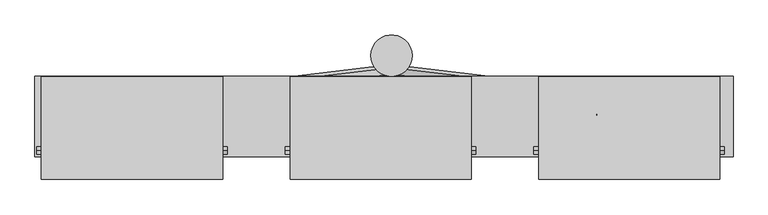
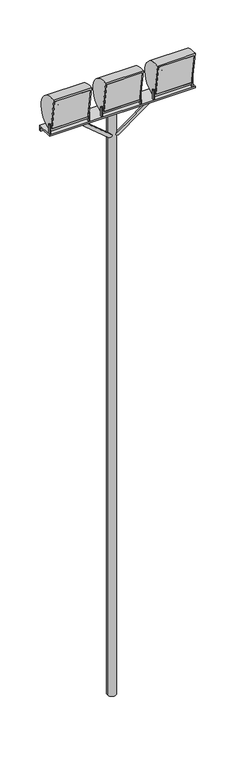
"""IFC4 building model written with IfcOpenShell, lengths in millimetres: light fixture geometry, Suporte para 3 Refletores : Suporte para 3 Refletores."""

from ifc_helpers import new_model, si_unit, point, frame, frame_2d, origin, place, context, project, spatial, polyline, circle_curve, ellipse_curve, trimmed, segment, composite_curve, outline, extrude, faceted_brep, source, transform, mapped, element, save
from ifc_brep_helpers import plane_surface, cylinder_surface, revolved_surface, advanced_brep


def light_fixture_2ec7923f(model_context):
    return source(origin(), model_context, "Body", "SolidModel", [
        extrude(outline(composite_curve([segment(polyline([(-215.6496538, 1233.7453536), (-215.9971641, 1139.9130557), (-230.5563131, 1139.9130557), (-230.235012, 1226.6685193)]), True, "CONTINUOUS"), segment(trimmed(circle_curve(frame_2d((-223.1042582, 1226.6421103)), 7.1308027), [point((-230.235012, 1226.6685193))], [point((-223.0778493, 1233.7728641))], False, "CARTESIAN"), True, "CONTINUOUS"), segment(polyline([(-223.0778493, 1233.7728641), (-215.6496538, 1233.7453536)]), True, "CONTINUOUS")], self_intersect=False)), frame((924.3860458, 0.0, 0.0), z_axis=(1.0, 0.0, 0.0), x_axis=(0.0, 1.0, 0.0)), (0.0, 0.0, 1.0), 9.0716009),
        extrude(outline(polyline([(0.0, -329.4551254), (0.0, 0.0), (1.9999999, 0.0), (1.9999999, -329.4551254), (0.0, -329.4551254)])), frame((945.3978949, -232.4468305, 1187.4893457), z_axis=(0.0, -0.14922756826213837, 0.9888028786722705), x_axis=(0.0, 0.9888028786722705, 0.14922756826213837)), (0.0, 0.0, 1.0), 292.5070107),
        extrude(outline(composite_curve([segment(polyline([(-215.6496538, 1233.7453536), (-215.9971641, 1139.9130557), (-230.5563131, 1139.9130557), (-230.235012, 1226.6685193)]), True, "CONTINUOUS"), segment(trimmed(circle_curve(frame_2d((-223.1042582, 1226.6421103)), 7.1308027), [point((-230.235012, 1226.6685193))], [point((-223.0778493, 1233.7728641))], False, "CARTESIAN"), True, "CONTINUOUS"), segment(polyline([(-223.0778493, 1233.7728641), (-215.6496538, 1233.7453536)]), True, "CONTINUOUS")], self_intersect=False)), frame((1283.4576467, 0.0, 0.0), z_axis=(1.0, 0.0, 0.0), x_axis=(0.0, 1.0, 0.0)), (0.0, 0.0, 1.0), 9.0716009),
        advanced_brep(
        [(1269.8530203, -153.0454516, 1322.4661982), (1269.8530203, -160.1705981, 1369.678422), (1274.8530203, -159.4244602, 1364.7344076), (1274.8530203, -153.7915894, 1327.4102126), (1239.8530203, -153.0454516, 1322.4661982), (1239.8530203, -160.1705981, 1369.678422), (1234.8547001, -153.8109289, 1327.538359), (1234.8547001, -159.4051207, 1364.6062613), (1214.8530203, -153.9965424, 1328.7682597), (1214.8530203, -159.2195073, 1363.3763605), (1233.6427043, -159.2195073, 1363.3763605), (1233.6427043, -153.9965424, 1328.7682597), (1209.8530203, -154.7426802, 1333.7122741), (1209.8530203, -158.4733694, 1358.4323461), (1209.8530203, -156.6080248, 1346.0723101), (1274.8530203, -156.6080248, 1346.0723101)],
        [
            (0, 1, circle_curve(frame((1269.8530203, -156.6080248, 1346.0723101), z_axis=(1.0, 0.0, 0.0), x_axis=(0.0, -0.14922756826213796, 0.9888028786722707)), 23.8734255)),
            (1, 2, circle_curve(frame((1269.8530203, -159.4244602, 1364.7344076), z_axis=(0.0, 0.9888028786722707, 0.14922756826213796), x_axis=(1.0, 0.0, 0.0)), 5.0)),
            (2, 3, circle_curve(frame((1274.8530203, -156.6080248, 1346.0723101), z_axis=(-1.0, 0.0, 0.0), x_axis=(0.0, -0.14922756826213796, 0.9888028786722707)), 18.8734255)),
            (3, 0, circle_curve(frame((1269.8530203, -153.7915894, 1327.4102126), z_axis=(0.0, 0.9888028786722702, 0.14922756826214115), x_axis=(1.0, 0.0, 0.0)), 5.0)),
            (1, 0, circle_curve(frame((1269.8530203, -156.6080248, 1346.0723101), z_axis=(1.0, 0.0, 0.0), x_axis=(0.0, -0.14922756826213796, 0.9888028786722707)), 23.8734255)),
            (3, 2, circle_curve(frame((1274.8530203, -156.6080248, 1346.0723101), z_axis=(-1.0, 0.0, 0.0), x_axis=(0.0, -0.14922756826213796, 0.9888028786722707)), 18.8734255)),
            (4, 5, circle_curve(frame((1239.8530203, -156.6080248, 1346.0723101), z_axis=(1.0, 0.0, 0.0), x_axis=(0.0, -0.14922756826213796, 0.9888028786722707)), 23.8734255)),
            (5, 1),
            (0, 4),
            (5, 4, circle_curve(frame((1239.8530203, -156.6080248, 1346.0723101), z_axis=(1.0, 0.0, 0.0), x_axis=(0.0, -0.14922756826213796, 0.9888028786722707)), 23.8734255)),
            (6, 7, circle_curve(frame((1234.8547001, -156.6080248, 1346.0723101), z_axis=(1.0, 0.0, 0.0), x_axis=(0.0, -0.14922756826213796, 0.9888028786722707)), 18.7438281)),
            (7, 5, circle_curve(frame((1239.8530203, -159.4244602, 1364.7344076), z_axis=(0.0, 0.9888028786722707, 0.14922756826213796), x_axis=(1.0, 0.0, 0.0)), 5.0)),
            (4, 6, circle_curve(frame((1239.8530203, -153.7915894, 1327.4102126), z_axis=(0.0, 0.9888028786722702, 0.14922756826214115), x_axis=(1.0, 0.0, 0.0)), 5.0)),
            (7, 6, circle_curve(frame((1234.8547001, -156.6080248, 1346.0723101), z_axis=(1.0, 0.0, 0.0), x_axis=(0.0, -0.14922756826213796, 0.9888028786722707)), 18.7438281)),
            (8, 9, circle_curve(frame((1214.8530203, -156.6080248, 1346.0723101), z_axis=(1.0, 0.0, 0.0), x_axis=(0.0, -0.14922756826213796, 0.9888028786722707)), 17.5)),
            (9, 10),
            (10, 11, circle_curve(frame((1233.6427043, -156.6080248, 1346.0723101), z_axis=(-1.0, 0.0, 0.0), x_axis=(0.0, -0.14922756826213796, 0.9888028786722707)), 17.5)),
            (11, 8),
            (9, 8, circle_curve(frame((1214.8530203, -156.6080248, 1346.0723101), z_axis=(1.0, 0.0, 0.0), x_axis=(0.0, -0.14922756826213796, 0.9888028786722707)), 17.5)),
            (11, 10, circle_curve(frame((1233.6427043, -156.6080248, 1346.0723101), z_axis=(-1.0, 0.0, 0.0), x_axis=(0.0, -0.14922756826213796, 0.9888028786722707)), 17.5)),
            (12, 13, circle_curve(frame((1209.8530203, -156.6080248, 1346.0723101), z_axis=(1.0, 0.0, 0.0), x_axis=(0.0, -0.14922756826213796, 0.9888028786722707)), 12.5)),
            (13, 9, circle_curve(frame((1214.8530203, -158.4733694, 1358.4323461), z_axis=(0.0, 0.9888028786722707, 0.14922756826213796), x_axis=(1.0, 0.0, 0.0)), 5.0)),
            (8, 12, circle_curve(frame((1214.8530203, -154.7426802, 1333.7122741), z_axis=(0.0, 0.9888028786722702, 0.14922756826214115), x_axis=(1.0, 0.0, 0.0)), 5.0)),
            (13, 12, circle_curve(frame((1209.8530203, -156.6080248, 1346.0723101), z_axis=(1.0, 0.0, 0.0), x_axis=(0.0, -0.14922756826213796, 0.9888028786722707)), 12.5)),
            (14, 13),
            (12, 14),
            (2, 15),
            (15, 3),
            (10, 7, circle_curve(frame((1233.6427043, -159.4004313, 1364.5751883), z_axis=(0.0, -0.9888028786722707, -0.14922756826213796), x_axis=(1.0, 0.0, 0.0)), 1.2124032)),
            (6, 11, circle_curve(frame((1233.6427043, -153.8156184, 1327.569432), z_axis=(0.0, -0.9888028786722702, -0.14922756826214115), x_axis=(1.0, 0.0, 0.0)), 1.2124032)),
        ],
        [
            revolved_surface(trimmed(ellipse_curve(frame((1269.8530203, -159.4244602, 1364.7344076), z_axis=(0.0, -0.9888028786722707, -0.14922756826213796), x_axis=(1.0, 0.0, 0.0)), 5.0, 5.0), [point((1274.8530203, -159.4244602, 1364.7344076))], [point((1269.8530203, -160.1705981, 1369.678422))], True, "CARTESIAN"), (1025.2774518, -156.6080248, 1346.0723101), (-1.0, 0.0, 0.0)),
            cylinder_surface(frame((1025.2774518, -156.6080248, 1346.0723101), z_axis=(-1.0, 0.0, 0.0), x_axis=(0.0, -0.14922756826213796, 0.9888028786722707)), 23.8734255),
            revolved_surface(trimmed(ellipse_curve(frame((1239.8530203, -159.4244602, 1364.7344076), z_axis=(0.0, -0.9888028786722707, -0.14922756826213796), x_axis=(1.0, 0.0, 0.0)), 5.0, 5.0), [point((1239.8530203, -160.1705981, 1369.678422))], [point((1234.8547001, -159.4051207, 1364.6062613))], True, "CARTESIAN"), (1025.2774518, -156.6080248, 1346.0723101), (-1.0, 0.0, 0.0)),
            cylinder_surface(frame((1025.2774518, -156.6080248, 1346.0723101), z_axis=(-1.0, 0.0, 0.0), x_axis=(0.0, -0.14922756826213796, 0.9888028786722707)), 17.5),
            revolved_surface(trimmed(ellipse_curve(frame((1214.8530203, -158.4733694, 1358.4323461), z_axis=(0.0, -0.9888028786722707, -0.14922756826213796), x_axis=(1.0, 0.0, 0.0)), 5.0, 5.0), [point((1214.8530203, -159.2195073, 1363.3763605))], [point((1209.8530203, -158.4733694, 1358.4323461))], True, "CARTESIAN"), (1025.2774518, -156.6080248, 1346.0723101), (-1.0, 0.0, 0.0)),
            plane_surface(frame((1209.8530203, -156.6080248, 1346.0723101), z_axis=(-1.0000000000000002, 0.0, 0.0), x_axis=(0.0, -0.14922756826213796, 0.9888028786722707))),
            plane_surface(frame((1274.8530203, -156.6080248, 1346.0723101), z_axis=(1.0000000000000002, 0.0, 0.0), x_axis=(0.0, -0.14922756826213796, 0.9888028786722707))),
            revolved_surface(trimmed(ellipse_curve(frame((1233.6427043, -159.4004313, 1364.5751883), z_axis=(0.0, 0.9888028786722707, 0.14922756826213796), x_axis=(1.0, 0.0, 0.0)), 1.2124032, 1.2124032), [point((1234.8547001, -159.4051207, 1364.6062613))], [point((1233.6427043, -159.2195073, 1363.3763605))], True, "CARTESIAN"), (1025.2774518, -156.6080248, 1346.0723101), (-1.0, 0.0, 0.0)),
        ],
        [
            (0, [[1, 2, 3, 4]]),
            (0, [[5, -4, 6, -2]]),
            (1, [[7, 8, -1, 9]]),
            (1, [[10, -9, -5, -8]]),
            (2, [[11, 12, -7, 13]]),
            (2, [[14, -13, -10, -12]]),
            (3, [[15, 16, 17, 18]]),
            (3, [[19, -18, 20, -16]]),
            (4, [[21, 22, -15, 23]]),
            (4, [[24, -23, -19, -22]]),
            (5, [[25, -21, 26]]),
            (5, [[-26, -24, -25]]),
            (6, [[-3, 27, 28]]),
            (6, [[-6, -28, -27]]),
            (7, [[-17, 29, -11, 30]]),
            (7, [[-20, -30, -14, -29]]),
        ],
    ),
        advanced_brep(
        [(1209.8612696, -155.5024222, 1332.5401673), (1209.8612696, -159.5865009, 1359.6018478), (1209.8612696, -157.5444616, 1346.0710076), (1057.8500062, -154.3135899, 1324.6627973), (1057.8500062, -160.7753332, 1367.4792179), (1045.3500062, -157.5444616, 1346.0710076)],
        [
            (0, 1, circle_curve(frame((1209.8612696, -157.5444616, 1346.0710076), z_axis=(1.0, 0.0, 0.0), x_axis=(0.0, -0.14922756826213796, 0.9888028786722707)), 13.6840624)),
            (1, 2),
            (2, 0),
            (1, 0, circle_curve(frame((1209.8612696, -157.5444616, 1346.0710076), z_axis=(1.0, 0.0, 0.0), x_axis=(0.0, -0.14922756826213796, 0.9888028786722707)), 13.6840624)),
            (3, 4, circle_curve(frame((1057.8500062, -157.5444616, 1346.0710076), z_axis=(1.0, 0.0, 0.0), x_axis=(0.0, -0.14922756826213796, 0.9888028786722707)), 21.6506351)),
            (4, 1, circle_curve(frame((1126.3799993, -138.8945471, 1222.4940487), z_axis=(0.0, 0.9888028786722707, 0.14922756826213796), x_axis=(1.0, 0.0, 0.0)), 161.8512528)),
            (0, 3, circle_curve(frame((1126.3799993, -176.194376, 1469.6479664), z_axis=(0.0, 0.9888028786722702, 0.14922756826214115), x_axis=(1.0, 0.0, 0.0)), 161.8512528)),
            (4, 3, circle_curve(frame((1057.8500062, -157.5444616, 1346.0710076), z_axis=(1.0, 0.0, 0.0), x_axis=(0.0, -0.14922756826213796, 0.9888028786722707)), 21.6506351)),
            (5, 4, circle_curve(frame((1067.0890735, -157.8254124, 1347.9326272), z_axis=(0.0, 0.9888028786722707, 0.14922756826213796), x_axis=(1.0, 0.0, 0.0)), 21.8204401)),
            (3, 5, circle_curve(frame((1067.0890735, -157.2635107, 1344.209388), z_axis=(0.0, 0.9888028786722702, 0.14922756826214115), x_axis=(1.0, 0.0, 0.0)), 21.8204401)),
        ],
        [
            plane_surface(frame((1209.8612696, -157.5444616, 1346.0710076), z_axis=(1.0000000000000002, 0.0, 0.0), x_axis=(0.0, -0.14922756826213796, 0.9888028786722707))),
            revolved_surface(trimmed(ellipse_curve(frame((1126.3799993, -138.8945471, 1222.4940487), z_axis=(0.0, -0.9888028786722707, -0.14922756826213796), x_axis=(1.0, 0.0, 0.0)), 161.8512528, 161.8512528), [point((1209.8612696, -159.5865009, 1359.6018478))], [point((1057.8500062, -160.7753332, 1367.4792179))], True, "CARTESIAN"), (1274.8530203, -157.5444616, 1346.0710076), (-1.0, 0.0, 0.0)),
            revolved_surface(trimmed(ellipse_curve(frame((1067.0890735, -157.8254124, 1347.9326272), z_axis=(0.0, -0.9888028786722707, -0.14922756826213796), x_axis=(1.0, 0.0, 0.0)), 21.8204401, 21.8204401), [point((1057.8500062, -160.7753332, 1367.4792179))], [point((1045.3500062, -157.5444616, 1346.0710076))], True, "CARTESIAN"), (1274.8530203, -157.5444616, 1346.0710076), (-1.0, 0.0, 0.0)),
        ],
        [
            (0, [[1, 2, 3]]),
            (0, [[4, -3, -2]]),
            (1, [[5, 6, -1, 7]]),
            (1, [[8, -7, -4, -6]]),
            (2, [[9, -5, 10]]),
            (2, [[-10, -8, -9]]),
        ],
    ),
        advanced_brep(
        [(1283.4576467, -279.0930554, 1496.5737998), (1283.4576467, -229.4507155, 1167.6366659), (933.4576467, -279.0930554, 1496.5737998), (933.4576467, -229.4507155, 1167.6366659), (1274.8530203, -276.0969404, 1476.72112), (1274.8530203, -232.4468305, 1187.4893457), (945.3978949, -232.4468305, 1187.4893457), (945.3978949, -276.0969404, 1476.72112), (1274.8530203, -260.5500074, 1489.1241523), (1274.8530203, -213.9320229, 1180.226823), (945.3978949, -213.9320229, 1180.226823), (945.3978949, -260.5500074, 1489.1241523)],
        [
            (0, 1),
            (1, 0, circle_curve(frame((1283.4576467, -246.8558639, 1333.2244396), z_axis=(1.0, 0.0, 0.0), x_axis=(0.0, 0.9888028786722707, 0.14922756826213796)), 166.5)),
            (2, 3, circle_curve(frame((933.4576467, -246.8558639, 1333.2244396), z_axis=(-1.0, 0.0, 0.0), x_axis=(0.0, 0.9888028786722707, 0.14922756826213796)), 166.5)),
            (3, 2),
            (0, 2),
            (3, 1),
            (4, 5),
            (5, 6),
            (6, 7),
            (7, 4),
            (4, 8),
            (8, 9, circle_curve(frame((1274.8530203, -246.8558639, 1333.2244396), z_axis=(-1.0, 0.0, 0.0), x_axis=(0.0, 0.9888028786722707, 0.14922756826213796)), 156.5)),
            (9, 5),
            (6, 10),
            (10, 11, circle_curve(frame((945.3978949, -246.8558639, 1333.2244396), z_axis=(1.0, 0.0, 0.0), x_axis=(0.0, 0.9888028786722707, 0.14922756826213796)), 156.5)),
            (11, 7),
            (9, 10),
            (8, 11),
        ],
        [
            plane_surface(frame((1283.4576467, -229.4254954, 1167.4695535), z_axis=(1.0, 0.0, 0.0), x_axis=(0.0, 0.14922756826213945, -0.9888028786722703))),
            plane_surface(frame((933.4576467, -229.4254954, 1167.4695535), z_axis=(-1.0, 0.0, 0.0), x_axis=(0.0, -0.14922756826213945, 0.9888028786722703))),
            plane_surface(frame((1283.4576467, -279.0930554, 1496.5737998), z_axis=(0.0, -0.9888028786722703, -0.14922756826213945), x_axis=(-1.0, 0.0, 0.0))),
            cylinder_surface(frame((933.4576467, -246.8558639, 1333.2244396), z_axis=(1.0000000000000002, 0.0, 0.0), x_axis=(0.0, 0.9888028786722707, 0.14922756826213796)), 166.5),
            plane_surface(frame((1274.8530203, -232.4468305, 1187.4893457), z_axis=(-1.0, 0.0, 0.0), x_axis=(0.0, 0.9309421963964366, -0.3651665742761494))),
            plane_surface(frame((945.3978949, -232.4468305, 1187.4893457), z_axis=(1.0, 0.0, 0.0), x_axis=(0.0, -0.9309421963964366, 0.3651665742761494))),
            plane_surface(frame((1274.8530203, -232.4468305, 1187.4893457), z_axis=(0.0, 0.3651665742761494, 0.9309421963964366), x_axis=(-1.0, 0.0, 0.0))),
            revolved_surface(polyline([(1274.8530203, -92.10821338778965, 1356.5785540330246), (945.3978949, -92.10821338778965, 1356.5785540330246)]), (945.3978949, -246.8558639, 1333.2244396), (1.0000000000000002, 0.0, 0.0)),
            plane_surface(frame((1274.8530203, -260.5500074, 1489.1241523), z_axis=(0.0, 0.6236363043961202, -0.7817146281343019), x_axis=(-1.0, 0.0, 0.0))),
        ],
        [
            (0, [[1, 2]]),
            (1, [[3, 4]]),
            (2, [[-1, 5, -4, 6], [7, 8, 9, 10]]),
            (3, [[-2, -6, -3, -5]]),
            (4, [[11, 12, 13, -7]]),
            (5, [[14, 15, 16, -9]]),
            (6, [[-13, 17, -14, -8]]),
            (7, [[-12, 18, -15, -17]]),
            (8, [[-11, -10, -16, -18]]),
        ],
    ),
        extrude(outline(composite_curve([segment(polyline([(-215.6496538, 1233.7453536), (-215.9971641, 1139.9130557), (-230.5563131, 1139.9130557), (-230.235012, 1226.6685193)]), True, "CONTINUOUS"), segment(trimmed(circle_curve(frame_2d((-223.1042582, 1226.6421103)), 7.1308027), [point((-230.235012, 1226.6685193))], [point((-223.0778493, 1233.7728641))], False, "CARTESIAN"), True, "CONTINUOUS"), segment(polyline([(-223.0778493, 1233.7728641), (-215.6496538, 1233.7453536)]), True, "CONTINUOUS")], self_intersect=False)), frame((444.3860458, 0.0, 0.0), z_axis=(1.0, 0.0, 0.0), x_axis=(0.0, 1.0, 0.0)), (0.0, 0.0, 1.0), 9.0716009),
        extrude(outline(polyline([(0.0, -329.4551254), (0.0, 0.0), (1.9999999, 0.0), (1.9999999, -329.4551254), (0.0, -329.4551254)])), frame((465.3978949, -232.4468305, 1187.4893457), z_axis=(0.0, -0.14922756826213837, 0.9888028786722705), x_axis=(0.0, 0.9888028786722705, 0.14922756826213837)), (0.0, 0.0, 1.0), 292.5070107),
        extrude(outline(composite_curve([segment(polyline([(-215.6496538, 1233.7453536), (-215.9971641, 1139.9130557), (-230.5563131, 1139.9130557), (-230.235012, 1226.6685193)]), True, "CONTINUOUS"), segment(trimmed(circle_curve(frame_2d((-223.1042582, 1226.6421103)), 7.1308027), [point((-230.235012, 1226.6685193))], [point((-223.0778493, 1233.7728641))], False, "CARTESIAN"), True, "CONTINUOUS"), segment(polyline([(-223.0778493, 1233.7728641), (-215.6496538, 1233.7453536)]), True, "CONTINUOUS")], self_intersect=False)), frame((803.4576467, 0.0, 0.0), z_axis=(1.0, 0.0, 0.0), x_axis=(0.0, 1.0, 0.0)), (0.0, 0.0, 1.0), 9.0716009),
        advanced_brep(
        [(789.8530203, -153.0454516, 1322.4661982), (789.8530203, -160.1705981, 1369.678422), (794.8530203, -159.4244602, 1364.7344076), (794.8530203, -153.7915894, 1327.4102126), (759.8530203, -153.0454516, 1322.4661982), (759.8530203, -160.1705981, 1369.678422), (754.8547001, -153.8109289, 1327.538359), (754.8547001, -159.4051207, 1364.6062613), (734.8530203, -153.9965424, 1328.7682597), (734.8530203, -159.2195073, 1363.3763605), (753.6427043, -159.2195073, 1363.3763605), (753.6427043, -153.9965424, 1328.7682597), (729.8530203, -154.7426802, 1333.7122741), (729.8530203, -158.4733694, 1358.4323461), (729.8530203, -156.6080248, 1346.0723101), (794.8530203, -156.6080248, 1346.0723101)],
        [
            (0, 1, circle_curve(frame((789.8530203, -156.6080248, 1346.0723101), z_axis=(1.0, 0.0, 0.0), x_axis=(0.0, -0.14922756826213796, 0.9888028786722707)), 23.8734255)),
            (1, 2, circle_curve(frame((789.8530203, -159.4244602, 1364.7344076), z_axis=(0.0, 0.9888028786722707, 0.14922756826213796), x_axis=(1.0, 0.0, 0.0)), 5.0)),
            (2, 3, circle_curve(frame((794.8530203, -156.6080248, 1346.0723101), z_axis=(-1.0, 0.0, 0.0), x_axis=(0.0, -0.14922756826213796, 0.9888028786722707)), 18.8734255)),
            (3, 0, circle_curve(frame((789.8530203, -153.7915894, 1327.4102126), z_axis=(0.0, 0.9888028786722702, 0.14922756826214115), x_axis=(1.0, 0.0, 0.0)), 5.0)),
            (1, 0, circle_curve(frame((789.8530203, -156.6080248, 1346.0723101), z_axis=(1.0, 0.0, 0.0), x_axis=(0.0, -0.14922756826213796, 0.9888028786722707)), 23.8734255)),
            (3, 2, circle_curve(frame((794.8530203, -156.6080248, 1346.0723101), z_axis=(-1.0, 0.0, 0.0), x_axis=(0.0, -0.14922756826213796, 0.9888028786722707)), 18.8734255)),
            (4, 5, circle_curve(frame((759.8530203, -156.6080248, 1346.0723101), z_axis=(1.0, 0.0, 0.0), x_axis=(0.0, -0.14922756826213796, 0.9888028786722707)), 23.8734255)),
            (5, 1),
            (0, 4),
            (5, 4, circle_curve(frame((759.8530203, -156.6080248, 1346.0723101), z_axis=(1.0, 0.0, 0.0), x_axis=(0.0, -0.14922756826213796, 0.9888028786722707)), 23.8734255)),
            (6, 7, circle_curve(frame((754.8547001, -156.6080248, 1346.0723101), z_axis=(1.0, 0.0, 0.0), x_axis=(0.0, -0.14922756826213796, 0.9888028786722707)), 18.7438281)),
            (7, 5, circle_curve(frame((759.8530203, -159.4244602, 1364.7344076), z_axis=(0.0, 0.9888028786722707, 0.14922756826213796), x_axis=(1.0, 0.0, 0.0)), 5.0)),
            (4, 6, circle_curve(frame((759.8530203, -153.7915894, 1327.4102126), z_axis=(0.0, 0.9888028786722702, 0.14922756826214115), x_axis=(1.0, 0.0, 0.0)), 5.0)),
            (7, 6, circle_curve(frame((754.8547001, -156.6080248, 1346.0723101), z_axis=(1.0, 0.0, 0.0), x_axis=(0.0, -0.14922756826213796, 0.9888028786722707)), 18.7438281)),
            (8, 9, circle_curve(frame((734.8530203, -156.6080248, 1346.0723101), z_axis=(1.0, 0.0, 0.0), x_axis=(0.0, -0.14922756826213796, 0.9888028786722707)), 17.5)),
            (9, 10),
            (10, 11, circle_curve(frame((753.6427043, -156.6080248, 1346.0723101), z_axis=(-1.0, 0.0, 0.0), x_axis=(0.0, -0.14922756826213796, 0.9888028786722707)), 17.5)),
            (11, 8),
            (9, 8, circle_curve(frame((734.8530203, -156.6080248, 1346.0723101), z_axis=(1.0, 0.0, 0.0), x_axis=(0.0, -0.14922756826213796, 0.9888028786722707)), 17.5)),
            (11, 10, circle_curve(frame((753.6427043, -156.6080248, 1346.0723101), z_axis=(-1.0, 0.0, 0.0), x_axis=(0.0, -0.14922756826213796, 0.9888028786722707)), 17.5)),
            (12, 13, circle_curve(frame((729.8530203, -156.6080248, 1346.0723101), z_axis=(1.0, 0.0, 0.0), x_axis=(0.0, -0.14922756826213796, 0.9888028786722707)), 12.5)),
            (13, 9, circle_curve(frame((734.8530203, -158.4733694, 1358.4323461), z_axis=(0.0, 0.9888028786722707, 0.14922756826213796), x_axis=(1.0, 0.0, 0.0)), 5.0)),
            (8, 12, circle_curve(frame((734.8530203, -154.7426802, 1333.7122741), z_axis=(0.0, 0.9888028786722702, 0.14922756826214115), x_axis=(1.0, 0.0, 0.0)), 5.0)),
            (13, 12, circle_curve(frame((729.8530203, -156.6080248, 1346.0723101), z_axis=(1.0, 0.0, 0.0), x_axis=(0.0, -0.14922756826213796, 0.9888028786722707)), 12.5)),
            (14, 13),
            (12, 14),
            (2, 15),
            (15, 3),
            (10, 7, circle_curve(frame((753.6427043, -159.4004313, 1364.5751883), z_axis=(0.0, -0.9888028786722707, -0.14922756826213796), x_axis=(1.0, 0.0, 0.0)), 1.2124032)),
            (6, 11, circle_curve(frame((753.6427043, -153.8156184, 1327.569432), z_axis=(0.0, -0.9888028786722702, -0.14922756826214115), x_axis=(1.0, 0.0, 0.0)), 1.2124032)),
        ],
        [
            revolved_surface(trimmed(ellipse_curve(frame((789.8530203, -159.4244602, 1364.7344076), z_axis=(0.0, -0.9888028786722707, -0.14922756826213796), x_axis=(1.0, 0.0, 0.0)), 5.0, 5.0), [point((794.8530203, -159.4244602, 1364.7344076))], [point((789.8530203, -160.1705981, 1369.678422))], True, "CARTESIAN"), (545.2774518, -156.6080248, 1346.0723101), (-1.0, 0.0, 0.0)),
            cylinder_surface(frame((545.2774518, -156.6080248, 1346.0723101), z_axis=(-1.0, 0.0, 0.0), x_axis=(0.0, -0.14922756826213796, 0.9888028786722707)), 23.8734255),
            revolved_surface(trimmed(ellipse_curve(frame((759.8530203, -159.4244602, 1364.7344076), z_axis=(0.0, -0.9888028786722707, -0.14922756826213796), x_axis=(1.0, 0.0, 0.0)), 5.0, 5.0), [point((759.8530203, -160.1705981, 1369.678422))], [point((754.8547001, -159.4051207, 1364.6062613))], True, "CARTESIAN"), (545.2774518, -156.6080248, 1346.0723101), (-1.0, 0.0, 0.0)),
            cylinder_surface(frame((545.2774518, -156.6080248, 1346.0723101), z_axis=(-1.0, 0.0, 0.0), x_axis=(0.0, -0.14922756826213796, 0.9888028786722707)), 17.5),
            revolved_surface(trimmed(ellipse_curve(frame((734.8530203, -158.4733694, 1358.4323461), z_axis=(0.0, -0.9888028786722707, -0.14922756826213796), x_axis=(1.0, 0.0, 0.0)), 5.0, 5.0), [point((734.8530203, -159.2195073, 1363.3763605))], [point((729.8530203, -158.4733694, 1358.4323461))], True, "CARTESIAN"), (545.2774518, -156.6080248, 1346.0723101), (-1.0, 0.0, 0.0)),
            plane_surface(frame((729.8530203, -156.6080248, 1346.0723101), z_axis=(-1.0000000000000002, 0.0, 0.0), x_axis=(0.0, -0.14922756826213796, 0.9888028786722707))),
            plane_surface(frame((794.8530203, -156.6080248, 1346.0723101), z_axis=(1.0000000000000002, 0.0, 0.0), x_axis=(0.0, -0.14922756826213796, 0.9888028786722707))),
            revolved_surface(trimmed(ellipse_curve(frame((753.6427043, -159.4004313, 1364.5751883), z_axis=(0.0, 0.9888028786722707, 0.14922756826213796), x_axis=(1.0, 0.0, 0.0)), 1.2124032, 1.2124032), [point((754.8547001, -159.4051207, 1364.6062613))], [point((753.6427043, -159.2195073, 1363.3763605))], True, "CARTESIAN"), (545.2774518, -156.6080248, 1346.0723101), (-1.0, 0.0, 0.0)),
        ],
        [
            (0, [[1, 2, 3, 4]]),
            (0, [[5, -4, 6, -2]]),
            (1, [[7, 8, -1, 9]]),
            (1, [[10, -9, -5, -8]]),
            (2, [[11, 12, -7, 13]]),
            (2, [[14, -13, -10, -12]]),
            (3, [[15, 16, 17, 18]]),
            (3, [[19, -18, 20, -16]]),
            (4, [[21, 22, -15, 23]]),
            (4, [[24, -23, -19, -22]]),
            (5, [[25, -21, 26]]),
            (5, [[-26, -24, -25]]),
            (6, [[-3, 27, 28]]),
            (6, [[-6, -28, -27]]),
            (7, [[-17, 29, -11, 30]]),
            (7, [[-20, -30, -14, -29]]),
        ],
    ),
        advanced_brep(
        [(729.8612696, -155.5024222, 1332.5401673), (729.8612696, -159.5865009, 1359.6018478), (729.8612696, -157.5444616, 1346.0710076), (577.8500062, -154.3135899, 1324.6627973), (577.8500062, -160.7753332, 1367.4792179), (565.3500062, -157.5444616, 1346.0710076)],
        [
            (0, 1, circle_curve(frame((729.8612696, -157.5444616, 1346.0710076), z_axis=(1.0, 0.0, 0.0), x_axis=(0.0, -0.14922756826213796, 0.9888028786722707)), 13.6840624)),
            (1, 2),
            (2, 0),
            (1, 0, circle_curve(frame((729.8612696, -157.5444616, 1346.0710076), z_axis=(1.0, 0.0, 0.0), x_axis=(0.0, -0.14922756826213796, 0.9888028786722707)), 13.6840624)),
            (3, 4, circle_curve(frame((577.8500062, -157.5444616, 1346.0710076), z_axis=(1.0, 0.0, 0.0), x_axis=(0.0, -0.14922756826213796, 0.9888028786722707)), 21.6506351)),
            (4, 1, circle_curve(frame((646.3799993, -138.8945471, 1222.4940487), z_axis=(0.0, 0.9888028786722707, 0.14922756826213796), x_axis=(1.0, 0.0, 0.0)), 161.8512528)),
            (0, 3, circle_curve(frame((646.3799993, -176.194376, 1469.6479664), z_axis=(0.0, 0.9888028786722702, 0.14922756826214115), x_axis=(1.0, 0.0, 0.0)), 161.8512528)),
            (4, 3, circle_curve(frame((577.8500062, -157.5444616, 1346.0710076), z_axis=(1.0, 0.0, 0.0), x_axis=(0.0, -0.14922756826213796, 0.9888028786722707)), 21.6506351)),
            (5, 4, circle_curve(frame((587.0890735, -157.8254124, 1347.9326272), z_axis=(0.0, 0.9888028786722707, 0.14922756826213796), x_axis=(1.0, 0.0, 0.0)), 21.8204401)),
            (3, 5, circle_curve(frame((587.0890735, -157.2635107, 1344.209388), z_axis=(0.0, 0.9888028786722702, 0.14922756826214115), x_axis=(1.0, 0.0, 0.0)), 21.8204401)),
        ],
        [
            plane_surface(frame((729.8612696, -157.5444616, 1346.0710076), z_axis=(1.0000000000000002, 0.0, 0.0), x_axis=(0.0, -0.14922756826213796, 0.9888028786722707))),
            revolved_surface(trimmed(ellipse_curve(frame((646.3799993, -138.8945471, 1222.4940487), z_axis=(0.0, -0.9888028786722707, -0.14922756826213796), x_axis=(1.0, 0.0, 0.0)), 161.8512528, 161.8512528), [point((729.8612696, -159.5865009, 1359.6018478))], [point((577.8500062, -160.7753332, 1367.4792179))], True, "CARTESIAN"), (794.8530203, -157.5444616, 1346.0710076), (-1.0, 0.0, 0.0)),
            revolved_surface(trimmed(ellipse_curve(frame((587.0890735, -157.8254124, 1347.9326272), z_axis=(0.0, -0.9888028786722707, -0.14922756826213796), x_axis=(1.0, 0.0, 0.0)), 21.8204401, 21.8204401), [point((577.8500062, -160.7753332, 1367.4792179))], [point((565.3500062, -157.5444616, 1346.0710076))], True, "CARTESIAN"), (794.8530203, -157.5444616, 1346.0710076), (-1.0, 0.0, 0.0)),
        ],
        [
            (0, [[1, 2, 3]]),
            (0, [[4, -3, -2]]),
            (1, [[5, 6, -1, 7]]),
            (1, [[8, -7, -4, -6]]),
            (2, [[9, -5, 10]]),
            (2, [[-10, -8, -9]]),
        ],
    ),
        advanced_brep(
        [(803.4576467, -279.0930554, 1496.5737998), (803.4576467, -229.4507155, 1167.6366659), (453.4576467, -279.0930554, 1496.5737998), (453.4576467, -229.4507155, 1167.6366659), (794.8530203, -276.0969404, 1476.72112), (794.8530203, -232.4468305, 1187.4893457), (465.3978949, -232.4468305, 1187.4893457), (465.3978949, -276.0969404, 1476.72112), (794.8530203, -260.5500074, 1489.1241523), (794.8530203, -213.9320229, 1180.226823), (465.3978949, -213.9320229, 1180.226823), (465.3978949, -260.5500074, 1489.1241523)],
        [
            (0, 1),
            (1, 0, circle_curve(frame((803.4576467, -246.8558639, 1333.2244396), z_axis=(1.0, 0.0, 0.0), x_axis=(0.0, 0.9888028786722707, 0.14922756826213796)), 166.5)),
            (2, 3, circle_curve(frame((453.4576467, -246.8558639, 1333.2244396), z_axis=(-1.0, 0.0, 0.0), x_axis=(0.0, 0.9888028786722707, 0.14922756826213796)), 166.5)),
            (3, 2),
            (0, 2),
            (3, 1),
            (4, 5),
            (5, 6),
            (6, 7),
            (7, 4),
            (4, 8),
            (8, 9, circle_curve(frame((794.8530203, -246.8558639, 1333.2244396), z_axis=(-1.0, 0.0, 0.0), x_axis=(0.0, 0.9888028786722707, 0.14922756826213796)), 156.5)),
            (9, 5),
            (6, 10),
            (10, 11, circle_curve(frame((465.3978949, -246.8558639, 1333.2244396), z_axis=(1.0, 0.0, 0.0), x_axis=(0.0, 0.9888028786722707, 0.14922756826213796)), 156.5)),
            (11, 7),
            (9, 10),
            (8, 11),
        ],
        [
            plane_surface(frame((803.4576467, -229.4254954, 1167.4695535), z_axis=(1.0, 0.0, 0.0), x_axis=(0.0, 0.14922756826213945, -0.9888028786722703))),
            plane_surface(frame((453.4576467, -229.4254954, 1167.4695535), z_axis=(-1.0, 0.0, 0.0), x_axis=(0.0, -0.14922756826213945, 0.9888028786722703))),
            plane_surface(frame((803.4576467, -279.0930554, 1496.5737998), z_axis=(0.0, -0.9888028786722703, -0.14922756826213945), x_axis=(-1.0, 0.0, 0.0))),
            cylinder_surface(frame((453.4576467, -246.8558639, 1333.2244396), z_axis=(1.0000000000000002, 0.0, 0.0), x_axis=(0.0, 0.9888028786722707, 0.14922756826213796)), 166.5),
            plane_surface(frame((794.8530203, -232.4468305, 1187.4893457), z_axis=(-1.0, 0.0, 0.0), x_axis=(0.0, 0.9309421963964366, -0.3651665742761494))),
            plane_surface(frame((465.3978949, -232.4468305, 1187.4893457), z_axis=(1.0, 0.0, 0.0), x_axis=(0.0, -0.9309421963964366, 0.3651665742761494))),
            plane_surface(frame((794.8530203, -232.4468305, 1187.4893457), z_axis=(0.0, 0.3651665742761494, 0.9309421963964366), x_axis=(-1.0, 0.0, 0.0))),
            revolved_surface(polyline([(794.8530203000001, -92.10821338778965, 1356.5785540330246), (465.3978949, -92.10821338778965, 1356.5785540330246)]), (465.3978949, -246.8558639, 1333.2244396), (1.0000000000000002, 0.0, 0.0)),
            plane_surface(frame((794.8530203, -260.5500074, 1489.1241523), z_axis=(0.0, 0.6236363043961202, -0.7817146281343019), x_axis=(-1.0, 0.0, 0.0))),
        ],
        [
            (0, [[1, 2]]),
            (1, [[3, 4]]),
            (2, [[-1, 5, -4, 6], [7, 8, 9, 10]]),
            (3, [[-2, -6, -3, -5]]),
            (4, [[11, 12, 13, -7]]),
            (5, [[14, 15, 16, -9]]),
            (6, [[-13, 17, -14, -8]]),
            (7, [[-12, 18, -15, -17]]),
            (8, [[-11, -10, -16, -18]]),
        ],
    ),
        extrude(outline(composite_curve([segment(polyline([(-215.6496538, 1233.7453536), (-215.9971641, 1139.9130557), (-230.5563131, 1139.9130557), (-230.235012, 1226.6685193)]), True, "CONTINUOUS"), segment(trimmed(circle_curve(frame_2d((-223.1042582, 1226.6421103)), 7.1308027), [point((-230.235012, 1226.6685193))], [point((-223.0778493, 1233.7728641))], False, "CARTESIAN"), True, "CONTINUOUS"), segment(polyline([(-223.0778493, 1233.7728641), (-215.6496538, 1233.7453536)]), True, "CONTINUOUS")], self_intersect=False)), frame((1404.3860458, 0.0, 0.0), z_axis=(1.0, 0.0, 0.0), x_axis=(0.0, 1.0, 0.0)), (0.0, 0.0, 1.0), 9.0716009),
        extrude(outline(polyline([(0.0, -329.4551254), (0.0, 0.0), (1.9999999, 0.0), (1.9999999, -329.4551254), (0.0, -329.4551254)])), frame((1425.3978949, -232.4468305, 1187.4893457), z_axis=(0.0, -0.14922756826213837, 0.9888028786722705), x_axis=(0.0, 0.9888028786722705, 0.14922756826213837)), (0.0, 0.0, 1.0), 292.5070107),
        extrude(outline(composite_curve([segment(polyline([(-215.6496538, 1233.7453536), (-215.9971641, 1139.9130557), (-230.5563131, 1139.9130557), (-230.235012, 1226.6685193)]), True, "CONTINUOUS"), segment(trimmed(circle_curve(frame_2d((-223.1042582, 1226.6421103)), 7.1308027), [point((-230.235012, 1226.6685193))], [point((-223.0778493, 1233.7728641))], False, "CARTESIAN"), True, "CONTINUOUS"), segment(polyline([(-223.0778493, 1233.7728641), (-215.6496538, 1233.7453536)]), True, "CONTINUOUS")], self_intersect=False)), frame((1763.4576467, 0.0, 0.0), z_axis=(1.0, 0.0, 0.0), x_axis=(0.0, 1.0, 0.0)), (0.0, 0.0, 1.0), 9.0716009),
        advanced_brep(
        [(1749.8530203, -153.0454516, 1322.4661982), (1749.8530203, -160.1705981, 1369.678422), (1754.8530203, -159.4244602, 1364.7344076), (1754.8530203, -153.7915894, 1327.4102126), (1719.8530203, -153.0454516, 1322.4661982), (1719.8530203, -160.1705981, 1369.678422), (1714.8547001, -153.8109289, 1327.538359), (1714.8547001, -159.4051207, 1364.6062613), (1694.8530203, -153.9965424, 1328.7682597), (1694.8530203, -159.2195073, 1363.3763605), (1713.6427043, -159.2195073, 1363.3763605), (1713.6427043, -153.9965424, 1328.7682597), (1689.8530203, -154.7426802, 1333.7122741), (1689.8530203, -158.4733694, 1358.4323461), (1689.8530203, -156.6080248, 1346.0723101), (1754.8530203, -156.6080248, 1346.0723101)],
        [
            (0, 1, circle_curve(frame((1749.8530203, -156.6080248, 1346.0723101), z_axis=(1.0, 0.0, 0.0), x_axis=(0.0, -0.14922756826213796, 0.9888028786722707)), 23.8734255)),
            (1, 2, circle_curve(frame((1749.8530203, -159.4244602, 1364.7344076), z_axis=(0.0, 0.9888028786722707, 0.14922756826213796), x_axis=(1.0, 0.0, 0.0)), 5.0)),
            (2, 3, circle_curve(frame((1754.8530203, -156.6080248, 1346.0723101), z_axis=(-1.0, 0.0, 0.0), x_axis=(0.0, -0.14922756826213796, 0.9888028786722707)), 18.8734255)),
            (3, 0, circle_curve(frame((1749.8530203, -153.7915894, 1327.4102126), z_axis=(0.0, 0.9888028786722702, 0.14922756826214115), x_axis=(1.0, 0.0, 0.0)), 5.0)),
            (1, 0, circle_curve(frame((1749.8530203, -156.6080248, 1346.0723101), z_axis=(1.0, 0.0, 0.0), x_axis=(0.0, -0.14922756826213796, 0.9888028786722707)), 23.8734255)),
            (3, 2, circle_curve(frame((1754.8530203, -156.6080248, 1346.0723101), z_axis=(-1.0, 0.0, 0.0), x_axis=(0.0, -0.14922756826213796, 0.9888028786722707)), 18.8734255)),
            (4, 5, circle_curve(frame((1719.8530203, -156.6080248, 1346.0723101), z_axis=(1.0, 0.0, 0.0), x_axis=(0.0, -0.14922756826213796, 0.9888028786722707)), 23.8734255)),
            (5, 1),
            (0, 4),
            (5, 4, circle_curve(frame((1719.8530203, -156.6080248, 1346.0723101), z_axis=(1.0, 0.0, 0.0), x_axis=(0.0, -0.14922756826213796, 0.9888028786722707)), 23.8734255)),
            (6, 7, circle_curve(frame((1714.8547001, -156.6080248, 1346.0723101), z_axis=(1.0, 0.0, 0.0), x_axis=(0.0, -0.14922756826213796, 0.9888028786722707)), 18.7438281)),
            (7, 5, circle_curve(frame((1719.8530203, -159.4244602, 1364.7344076), z_axis=(0.0, 0.9888028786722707, 0.14922756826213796), x_axis=(1.0, 0.0, 0.0)), 5.0)),
            (4, 6, circle_curve(frame((1719.8530203, -153.7915894, 1327.4102126), z_axis=(0.0, 0.9888028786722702, 0.14922756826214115), x_axis=(1.0, 0.0, 0.0)), 5.0)),
            (7, 6, circle_curve(frame((1714.8547001, -156.6080248, 1346.0723101), z_axis=(1.0, 0.0, 0.0), x_axis=(0.0, -0.14922756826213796, 0.9888028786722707)), 18.7438281)),
            (8, 9, circle_curve(frame((1694.8530203, -156.6080248, 1346.0723101), z_axis=(1.0, 0.0, 0.0), x_axis=(0.0, -0.14922756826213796, 0.9888028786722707)), 17.5)),
            (9, 10),
            (10, 11, circle_curve(frame((1713.6427043, -156.6080248, 1346.0723101), z_axis=(-1.0, 0.0, 0.0), x_axis=(0.0, -0.14922756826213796, 0.9888028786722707)), 17.5)),
            (11, 8),
            (9, 8, circle_curve(frame((1694.8530203, -156.6080248, 1346.0723101), z_axis=(1.0, 0.0, 0.0), x_axis=(0.0, -0.14922756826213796, 0.9888028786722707)), 17.5)),
            (11, 10, circle_curve(frame((1713.6427043, -156.6080248, 1346.0723101), z_axis=(-1.0, 0.0, 0.0), x_axis=(0.0, -0.14922756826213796, 0.9888028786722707)), 17.5)),
            (12, 13, circle_curve(frame((1689.8530203, -156.6080248, 1346.0723101), z_axis=(1.0, 0.0, 0.0), x_axis=(0.0, -0.14922756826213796, 0.9888028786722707)), 12.5)),
            (13, 9, circle_curve(frame((1694.8530203, -158.4733694, 1358.4323461), z_axis=(0.0, 0.9888028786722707, 0.14922756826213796), x_axis=(1.0, 0.0, 0.0)), 5.0)),
            (8, 12, circle_curve(frame((1694.8530203, -154.7426802, 1333.7122741), z_axis=(0.0, 0.9888028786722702, 0.14922756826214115), x_axis=(1.0, 0.0, 0.0)), 5.0)),
            (13, 12, circle_curve(frame((1689.8530203, -156.6080248, 1346.0723101), z_axis=(1.0, 0.0, 0.0), x_axis=(0.0, -0.14922756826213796, 0.9888028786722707)), 12.5)),
            (14, 13),
            (12, 14),
            (2, 15),
            (15, 3),
            (10, 7, circle_curve(frame((1713.6427043, -159.4004313, 1364.5751883), z_axis=(0.0, -0.9888028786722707, -0.14922756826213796), x_axis=(1.0, 0.0, 0.0)), 1.2124032)),
            (6, 11, circle_curve(frame((1713.6427043, -153.8156184, 1327.569432), z_axis=(0.0, -0.9888028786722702, -0.14922756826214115), x_axis=(1.0, 0.0, 0.0)), 1.2124032)),
        ],
        [
            revolved_surface(trimmed(ellipse_curve(frame((1749.8530203, -159.4244602, 1364.7344076), z_axis=(0.0, -0.9888028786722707, -0.14922756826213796), x_axis=(1.0, 0.0, 0.0)), 5.0, 5.0), [point((1754.8530203, -159.4244602, 1364.7344076))], [point((1749.8530203, -160.1705981, 1369.678422))], True, "CARTESIAN"), (1505.2774518, -156.6080248, 1346.0723101), (-1.0, 0.0, 0.0)),
            cylinder_surface(frame((1505.2774518, -156.6080248, 1346.0723101), z_axis=(-1.0, 0.0, 0.0), x_axis=(0.0, -0.14922756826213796, 0.9888028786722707)), 23.8734255),
            revolved_surface(trimmed(ellipse_curve(frame((1719.8530203, -159.4244602, 1364.7344076), z_axis=(0.0, -0.9888028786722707, -0.14922756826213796), x_axis=(1.0, 0.0, 0.0)), 5.0, 5.0), [point((1719.8530203, -160.1705981, 1369.678422))], [point((1714.8547001, -159.4051207, 1364.6062613))], True, "CARTESIAN"), (1505.2774518, -156.6080248, 1346.0723101), (-1.0, 0.0, 0.0)),
            cylinder_surface(frame((1505.2774518, -156.6080248, 1346.0723101), z_axis=(-1.0, 0.0, 0.0), x_axis=(0.0, -0.14922756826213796, 0.9888028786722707)), 17.5),
            revolved_surface(trimmed(ellipse_curve(frame((1694.8530203, -158.4733694, 1358.4323461), z_axis=(0.0, -0.9888028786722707, -0.14922756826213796), x_axis=(1.0, 0.0, 0.0)), 5.0, 5.0), [point((1694.8530203, -159.2195073, 1363.3763605))], [point((1689.8530203, -158.4733694, 1358.4323461))], True, "CARTESIAN"), (1505.2774518, -156.6080248, 1346.0723101), (-1.0, 0.0, 0.0)),
            plane_surface(frame((1689.8530203, -156.6080248, 1346.0723101), z_axis=(-1.0000000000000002, 0.0, 0.0), x_axis=(0.0, -0.14922756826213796, 0.9888028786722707))),
            plane_surface(frame((1754.8530203, -156.6080248, 1346.0723101), z_axis=(1.0000000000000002, 0.0, 0.0), x_axis=(0.0, -0.14922756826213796, 0.9888028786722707))),
            revolved_surface(trimmed(ellipse_curve(frame((1713.6427043, -159.4004313, 1364.5751883), z_axis=(0.0, 0.9888028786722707, 0.14922756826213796), x_axis=(1.0, 0.0, 0.0)), 1.2124032, 1.2124032), [point((1714.8547001, -159.4051207, 1364.6062613))], [point((1713.6427043, -159.2195073, 1363.3763605))], True, "CARTESIAN"), (1505.2774518, -156.6080248, 1346.0723101), (-1.0, 0.0, 0.0)),
        ],
        [
            (0, [[1, 2, 3, 4]]),
            (0, [[5, -4, 6, -2]]),
            (1, [[7, 8, -1, 9]]),
            (1, [[10, -9, -5, -8]]),
            (2, [[11, 12, -7, 13]]),
            (2, [[14, -13, -10, -12]]),
            (3, [[15, 16, 17, 18]]),
            (3, [[19, -18, 20, -16]]),
            (4, [[21, 22, -15, 23]]),
            (4, [[24, -23, -19, -22]]),
            (5, [[25, -21, 26]]),
            (5, [[-26, -24, -25]]),
            (6, [[-3, 27, 28]]),
            (6, [[-6, -28, -27]]),
            (7, [[-17, 29, -11, 30]]),
            (7, [[-20, -30, -14, -29]]),
        ],
    ),
        advanced_brep(
        [(1689.8612696, -155.5024222, 1332.5401673), (1689.8612696, -159.5865009, 1359.6018478), (1689.8612696, -157.5444616, 1346.0710076), (1537.8500062, -154.3135899, 1324.6627973), (1537.8500062, -160.7753332, 1367.4792179), (1525.3500062, -157.5444616, 1346.0710076)],
        [
            (0, 1, circle_curve(frame((1689.8612696, -157.5444616, 1346.0710076), z_axis=(1.0, 0.0, 0.0), x_axis=(0.0, -0.14922756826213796, 0.9888028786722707)), 13.6840624)),
            (1, 2),
            (2, 0),
            (1, 0, circle_curve(frame((1689.8612696, -157.5444616, 1346.0710076), z_axis=(1.0, 0.0, 0.0), x_axis=(0.0, -0.14922756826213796, 0.9888028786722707)), 13.6840624)),
            (3, 4, circle_curve(frame((1537.8500062, -157.5444616, 1346.0710076), z_axis=(1.0, 0.0, 0.0), x_axis=(0.0, -0.14922756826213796, 0.9888028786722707)), 21.6506351)),
            (4, 1, circle_curve(frame((1606.3799993, -138.8945471, 1222.4940487), z_axis=(0.0, 0.9888028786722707, 0.14922756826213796), x_axis=(1.0, 0.0, 0.0)), 161.8512528)),
            (0, 3, circle_curve(frame((1606.3799993, -176.194376, 1469.6479664), z_axis=(0.0, 0.9888028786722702, 0.14922756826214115), x_axis=(1.0, 0.0, 0.0)), 161.8512528)),
            (4, 3, circle_curve(frame((1537.8500062, -157.5444616, 1346.0710076), z_axis=(1.0, 0.0, 0.0), x_axis=(0.0, -0.14922756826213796, 0.9888028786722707)), 21.6506351)),
            (5, 4, circle_curve(frame((1547.0890735, -157.8254124, 1347.9326272), z_axis=(0.0, 0.9888028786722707, 0.14922756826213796), x_axis=(1.0, 0.0, 0.0)), 21.8204401)),
            (3, 5, circle_curve(frame((1547.0890735, -157.2635107, 1344.209388), z_axis=(0.0, 0.9888028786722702, 0.14922756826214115), x_axis=(1.0, 0.0, 0.0)), 21.8204401)),
        ],
        [
            plane_surface(frame((1689.8612696, -157.5444616, 1346.0710076), z_axis=(1.0000000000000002, 0.0, 0.0), x_axis=(0.0, -0.14922756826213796, 0.9888028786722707))),
            revolved_surface(trimmed(ellipse_curve(frame((1606.3799993, -138.8945471, 1222.4940487), z_axis=(0.0, -0.9888028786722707, -0.14922756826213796), x_axis=(1.0, 0.0, 0.0)), 161.8512528, 161.8512528), [point((1689.8612696, -159.5865009, 1359.6018478))], [point((1537.8500062, -160.7753332, 1367.4792179))], True, "CARTESIAN"), (1754.8530203, -157.5444616, 1346.0710076), (-1.0, 0.0, 0.0)),
            revolved_surface(trimmed(ellipse_curve(frame((1547.0890735, -157.8254124, 1347.9326272), z_axis=(0.0, -0.9888028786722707, -0.14922756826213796), x_axis=(1.0, 0.0, 0.0)), 21.8204401, 21.8204401), [point((1537.8500062, -160.7753332, 1367.4792179))], [point((1525.3500062, -157.5444616, 1346.0710076))], True, "CARTESIAN"), (1754.8530203, -157.5444616, 1346.0710076), (-1.0, 0.0, 0.0)),
        ],
        [
            (0, [[1, 2, 3]]),
            (0, [[4, -3, -2]]),
            (1, [[5, 6, -1, 7]]),
            (1, [[8, -7, -4, -6]]),
            (2, [[9, -5, 10]]),
            (2, [[-10, -8, -9]]),
        ],
    ),
        advanced_brep(
        [(1763.4576467, -279.0930554, 1496.5737998), (1763.4576467, -229.4507155, 1167.6366659), (1413.4576467, -279.0930554, 1496.5737998), (1413.4576467, -229.4507155, 1167.6366659), (1754.8530203, -276.0969404, 1476.72112), (1754.8530203, -232.4468305, 1187.4893457), (1425.3978949, -232.4468305, 1187.4893457), (1425.3978949, -276.0969404, 1476.72112), (1754.8530203, -260.5500074, 1489.1241523), (1754.8530203, -213.9320229, 1180.226823), (1425.3978949, -213.9320229, 1180.226823), (1425.3978949, -260.5500074, 1489.1241523)],
        [
            (0, 1),
            (1, 0, circle_curve(frame((1763.4576467, -246.8558639, 1333.2244396), z_axis=(1.0, 0.0, 0.0), x_axis=(0.0, 0.9888028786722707, 0.14922756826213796)), 166.5)),
            (2, 3, circle_curve(frame((1413.4576467, -246.8558639, 1333.2244396), z_axis=(-1.0, 0.0, 0.0), x_axis=(0.0, 0.9888028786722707, 0.14922756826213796)), 166.5)),
            (3, 2),
            (0, 2),
            (3, 1),
            (4, 5),
            (5, 6),
            (6, 7),
            (7, 4),
            (4, 8),
            (8, 9, circle_curve(frame((1754.8530203, -246.8558639, 1333.2244396), z_axis=(-1.0, 0.0, 0.0), x_axis=(0.0, 0.9888028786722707, 0.14922756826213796)), 156.5)),
            (9, 5),
            (6, 10),
            (10, 11, circle_curve(frame((1425.3978949, -246.8558639, 1333.2244396), z_axis=(1.0, 0.0, 0.0), x_axis=(0.0, 0.9888028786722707, 0.14922756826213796)), 156.5)),
            (11, 7),
            (9, 10),
            (8, 11),
        ],
        [
            plane_surface(frame((1763.4576467, -229.4254954, 1167.4695535), z_axis=(1.0, 0.0, 0.0), x_axis=(0.0, 0.14922756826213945, -0.9888028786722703))),
            plane_surface(frame((1413.4576467, -229.4254954, 1167.4695535), z_axis=(-1.0, 0.0, 0.0), x_axis=(0.0, -0.14922756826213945, 0.9888028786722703))),
            plane_surface(frame((1763.4576467, -279.0930554, 1496.5737998), z_axis=(0.0, -0.9888028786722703, -0.14922756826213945), x_axis=(-1.0, 0.0, 0.0))),
            cylinder_surface(frame((1413.4576467, -246.8558639, 1333.2244396), z_axis=(1.0000000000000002, 0.0, 0.0), x_axis=(0.0, 0.9888028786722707, 0.14922756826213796)), 166.5),
            plane_surface(frame((1754.8530203, -232.4468305, 1187.4893457), z_axis=(-1.0, 0.0, 0.0), x_axis=(0.0, 0.9309421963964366, -0.3651665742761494))),
            plane_surface(frame((1425.3978949, -232.4468305, 1187.4893457), z_axis=(1.0, 0.0, 0.0), x_axis=(0.0, -0.9309421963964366, 0.3651665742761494))),
            plane_surface(frame((1754.8530203, -232.4468305, 1187.4893457), z_axis=(0.0, 0.3651665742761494, 0.9309421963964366), x_axis=(-1.0, 0.0, 0.0))),
            revolved_surface(polyline([(1754.8530203, -92.10821338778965, 1356.5785540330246), (1425.3978949, -92.10821338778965, 1356.5785540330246)]), (1425.3978949, -246.8558639, 1333.2244396), (1.0000000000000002, 0.0, 0.0)),
            plane_surface(frame((1754.8530203, -260.5500074, 1489.1241523), z_axis=(0.0, 0.6236363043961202, -0.7817146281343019), x_axis=(-1.0, 0.0, 0.0))),
        ],
        [
            (0, [[1, 2]]),
            (1, [[3, 4]]),
            (2, [[-1, 5, -4, 6], [7, 8, 9, 10]]),
            (3, [[-2, -6, -3, -5]]),
            (4, [[11, 12, 13, -7]]),
            (5, [[14, 15, 16, -9]]),
            (6, [[-13, 17, -14, -8]]),
            (7, [[-12, 18, -15, -17]]),
            (8, [[-11, -10, -16, -18]]),
        ],
    ),
        extrude(outline(polyline([(-235.0, 1139.9130557), (-80.0, 1139.9130557), (-80.0, 1089.5), (-95.0, 1089.5), (-95.0, 1124.9130557), (-235.0, 1124.9130557), (-235.0, 1139.9130557)])), frame((440.8008072, 0.0, 0.0), z_axis=(1.0, 0.0, 0.0), x_axis=(0.0, 1.0, 0.0)), (0.0, 0.0, 1.0), 1348.3519694),
        extrude(outline(composite_curve([segment(trimmed(circle_curve(frame_2d((1129.4173025, -40.0)), 40.0), [point((1089.4173025, -40.0))], [point((1169.4173025, -40.0))], False, "CARTESIAN"), True, "CONTINUOUS"), segment(trimmed(circle_curve(frame_2d((1129.4173025, -40.0)), 40.0), [point((1169.4173025, -40.0))], [point((1089.4173025, -40.0))], False, "CARTESIAN"), True, "CONTINUOUS")], self_intersect=False)), frame((0.0, 0.0, -4677.8), z_axis=(0.0, 0.0, 1.0), x_axis=(1.0, 0.0, 0.0)), (0.0, 0.0, 1.0), 6000.0495118),
        faceted_brep([(1536.7655392, -108.7166496, 1124.9130557), (1536.7655392, -121.6817689, 1124.9130557), (1536.7655392, -118.7315928, 1103.4354746), (1536.7655392, -106.0065689, 1105.1833931), (725.0845589, -121.6817689, 1124.9130557), (725.0845589, -108.7166496, 1124.9130557), (725.0845589, -105.8528132, 1104.0640359), (725.0845589, -118.5778371, 1102.3161175), (1514.0380803, -108.7166496, 1124.9130557), (1516.0575079, -121.6817689, 1124.9130557), (744.4928259, -121.6817689, 1124.9130557), (746.5122536, -108.7166496, 1124.9130557), (1130.2751669, -75.8150369, 790.9985942), (1085.4749637, -75.3690936, 787.7520815), (1172.219844, -75.3690936, 787.7520815), (1085.4749637, -62.6440697, 789.5), (1172.219844, -62.6440697, 789.5), (1130.2751669, -63.090013, 792.7465127)], [[[0, 1, 2, 3]], [[4, 5, 6, 7]], [[1, 0, 8, 9]], [[5, 4, 10, 11]], [[2, 1, 9, 12, 10, 4, 7, 13, 14]], [[14, 13, 15, 16]], [[0, 3, 16, 15, 6, 5, 11, 17, 8]], [[12, 17, 11, 10]], [[17, 12, 9, 8]], [[3, 2, 14, 16]], [[7, 6, 15, 13]]]),
    ])


if __name__ == "__main__":
    model = new_model("IFC4")
    model_context = context("Model", 3, world=origin())
    ifc_project = project(units=[si_unit("LENGTHUNIT", "METRE", prefix="MILLI")], contexts=[model_context])
    site = spatial("IfcSite", under=ifc_project)
    building = spatial("IfcBuilding", under=site)
    placement = place(None, origin())
    light_fixture_shape = light_fixture_2ec7923f(model_context)
    element("IfcLightFixture", 1, ObjectType="Suporte para 3 Refletores : Suporte para 3 Refletores", at=placement, inside=building, context=model_context, shape_type="MappedRepresentation", body=[
        mapped(light_fixture_shape, transform((0.0, 0.0, 0.0), x_axis=(1.0, 0.0, 0.0), y_axis=(0.0, 1.0, 0.0), z_axis=(0.0, 0.0, 1.0))),
    ])
    save(model, "model.ifc")
